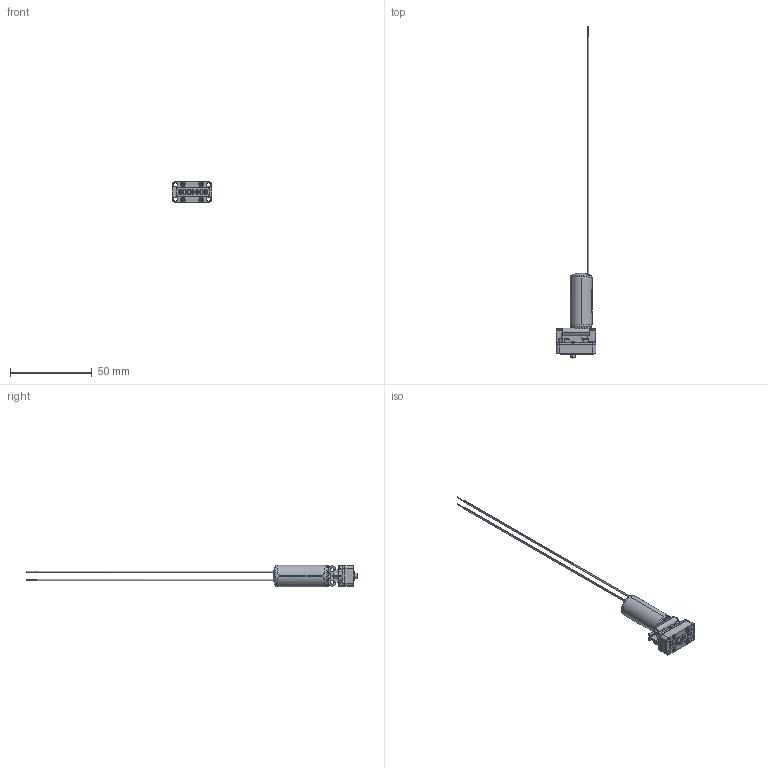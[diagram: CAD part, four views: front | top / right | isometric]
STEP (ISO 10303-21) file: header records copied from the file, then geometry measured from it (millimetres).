
FILE_DESCRIPTION (( 'STEP AP214' ), '1' );
FILE_NAME ('Lee-LFR_Series_Manifold_Lead_Wires-CAD_Model_A1 A1.step', '2021-03-24T18:51:19', ( '' ), ( '' ), 'SwSTEP 2.0', 'SolidWorks 2021', '' );
FILE_SCHEMA (( 'AUTOMOTIVE_DESIGN' ));
Length unit declared in the file: inch
Products named in the file (1): Lee-LFR_Series_Manifold_Lead_Wires-CAD_Model_A1 A1
Bounding box: 24.38 x 202.95 x 13.39 mm (x, y, z)
Volume: 8183.8 mm3; surface area: 5142.8 mm2
Topology: 1 solids, 1 shells, 497 faces, 1671 edges, 1276 vertices
Faces by surface type: cylinder 313, plane 164, cone 10, torus 10
Entity records: 29442 total; most frequent: CARTESIAN_POINT 7995, ORIENTED_EDGE 3338, DIRECTION 2933, EDGE_CURVE 1669, VERTEX_POINT 1276, AXIS2_PLACEMENT_3D 1116, LINE 701, VECTOR 701
